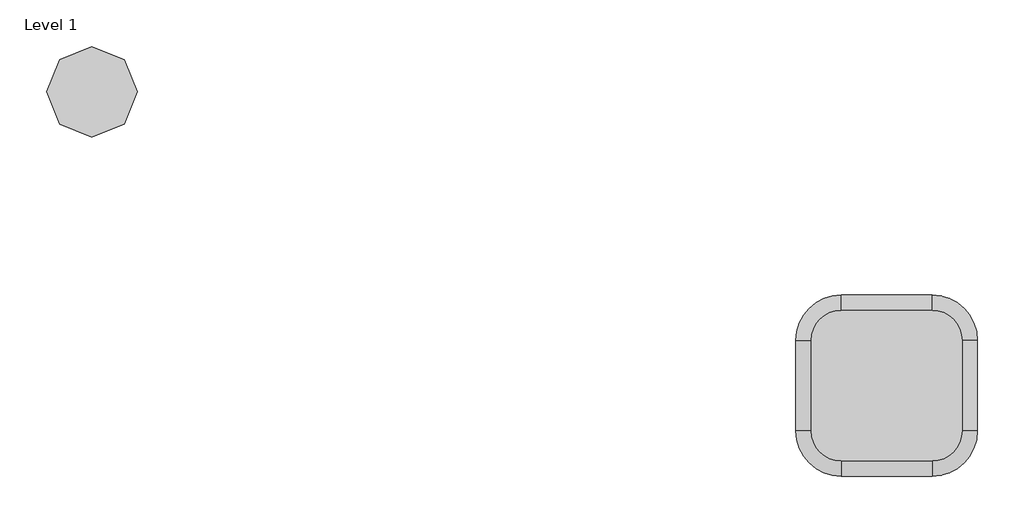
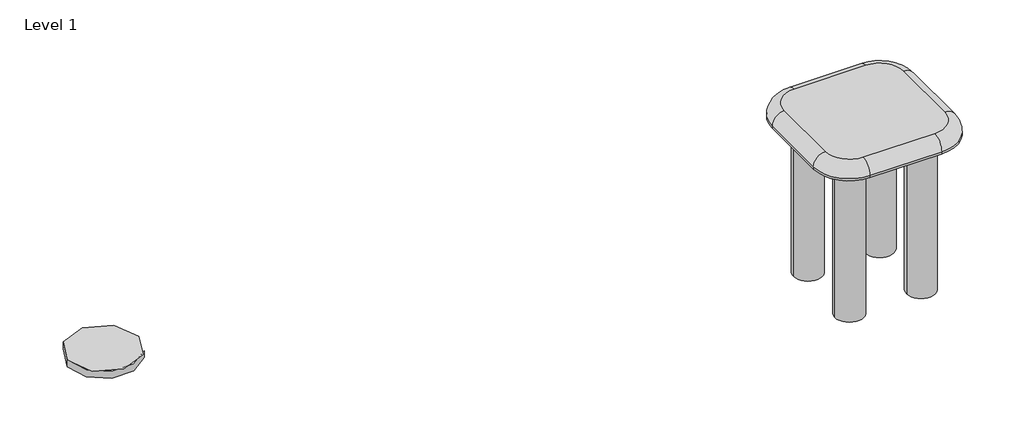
# One storey: 1 furniture element, 1 proxy.
"""IFC4 building model written with IfcOpenShell, lengths in millimetres."""

from ifc_helpers import new_model, si_unit, origin, place, context, project, spatial, transform, mapped, element, save
from components import materialmodel_materialmodel_ac00f72a, furniture_965ba35b

model = new_model("IFC4")

# Units and contexts
model_context = context("Model", 3, world=origin())
ifc_project = project(units=[si_unit("LENGTHUNIT", "METRE", prefix="MILLI")], contexts=[model_context])

# Site, building, storey
site = spatial("IfcSite", under=ifc_project)
building = spatial("IfcBuilding", under=site)
storey = spatial("IfcBuildingStorey", under=building, Name="Level 1", Elevation=0.0)

# Proxy
placement = place(None, origin())
materialmodel_materialmodel_shape = materialmodel_materialmodel_ac00f72a(model_context)
element("IfcBuildingElementProxy", 1, Name="MaterialModel : MaterialModel", ObjectType="MaterialModel : MaterialModel", at=placement, inside=storey, context=model_context, shape_type="MappedRepresentation", body=[
    mapped(materialmodel_materialmodel_shape, transform((-10638.9771528, 6850.3496115, 0.0), x_axis=(1.0, 0.0, 0.0), y_axis=(0.0, 1.0, 0.0), z_axis=(0.0, 0.0, 1.0))),
])

# Furniture
furniture_shape = furniture_965ba35b(model_context)
element("IfcFurniture", 2, ObjectType="Fredericia - Islet Side Table - 6770 : Fredericia - Islet Side Table - 6770", at=placement, inside=storey, context=model_context, shape_type="MappedRepresentation", body=[
    mapped(furniture_shape, transform((-8887.8465741, 6202.3330422, 0.0), x_axis=(1.0, 0.0, 0.0), y_axis=(0.0, 1.0, 0.0), z_axis=(0.0, 0.0, 1.0))),
])

save(model, "model.ifc")
